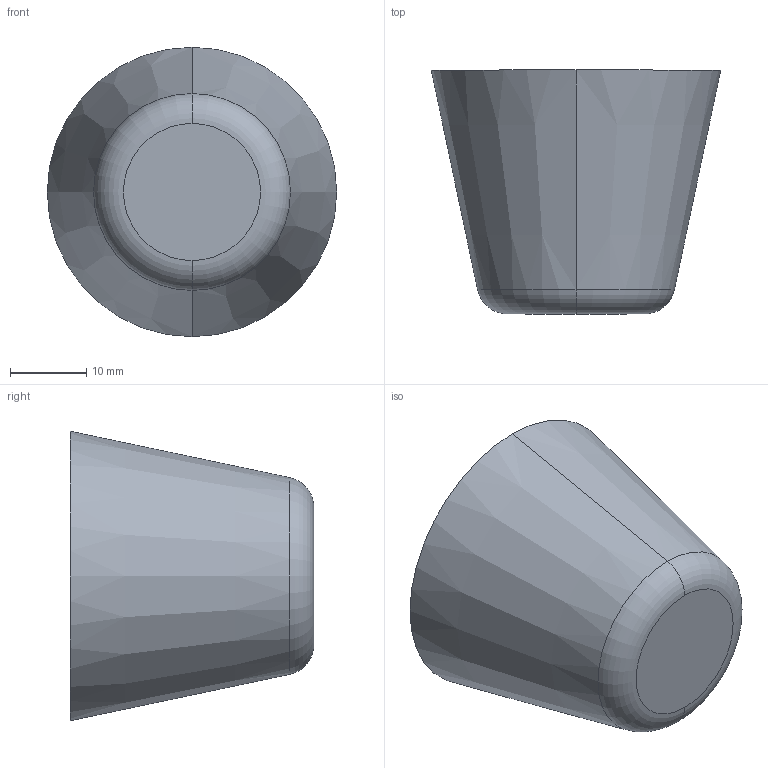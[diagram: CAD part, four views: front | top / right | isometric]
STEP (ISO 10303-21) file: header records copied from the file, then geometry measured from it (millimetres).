
FILE_DESCRIPTION (( 'STEP AP214' ), '1' );
FILE_NAME ('253-38-M8-55.step', '2023-03-24T07:38:23', ( '' ), ( '' ), 'SwSTEP 2.0', 'SolidWorks 2022', '' );
FILE_SCHEMA (( 'AUTOMOTIVE_DESIGN' ));
Length unit declared in the file: millimetre
Products named in the file (1): 253-38-M8-55
Bounding box: 38 x 32 x 38 mm (x, y, z)
Volume: 24446 mm3; surface area: 4921 mm2
Topology: 1 solids, 1 shells, 16 faces, 32 edges, 19 vertices
Faces by surface type: cone 6, cylinder 4, plane 4, torus 2
Entity records: 554 total; most frequent: DIRECTION 84, CARTESIAN_POINT 66, ORIENTED_EDGE 60, AXIS2_PLACEMENT_3D 37, EDGE_CURVE 30, CIRCLE 20, EDGE_LOOP 19, VERTEX_POINT 19
